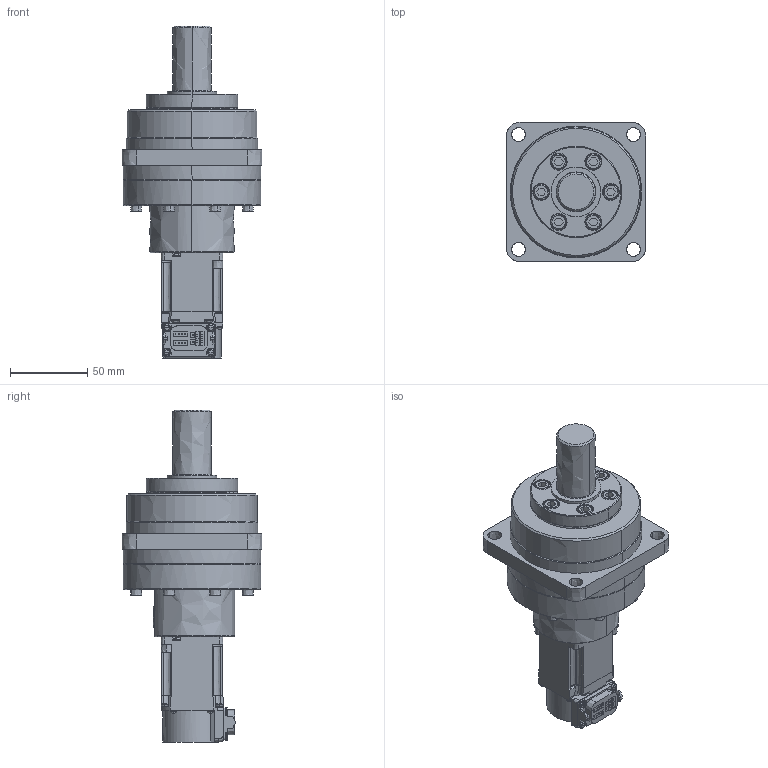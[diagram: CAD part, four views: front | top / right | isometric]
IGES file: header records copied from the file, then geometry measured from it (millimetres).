
Start section:  PTC IGES file: bc69384_hk-kt13wg7-20a-45_asm.igs
Global section: file name: bc69384_hk-kt13wg7-20a-45_asm.igs; native system: Creo Parametric by PTC Inc.; preprocessor: 2017020; author: PC0760; organization: Unknown; date: 20190328.140541; units: millimetre
Bounding box: 90 x 90 x 214.5 mm (x, y, z)
Volume: 601915 mm3; surface area: 60866.9 mm2
Topology: 1 solids, 1 shells, 718 faces, 1820 edges, 1151 vertices
Faces by surface type: bspline 718
